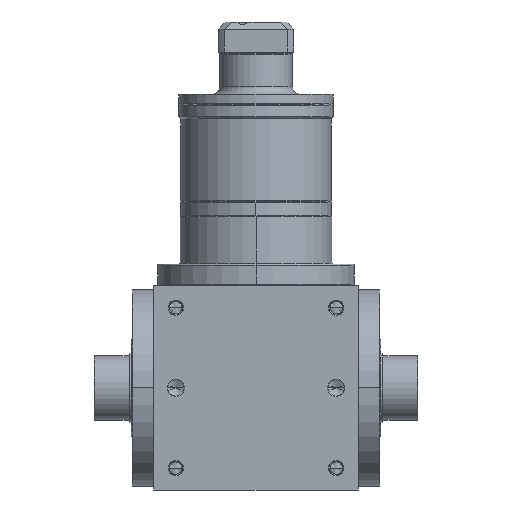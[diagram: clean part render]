
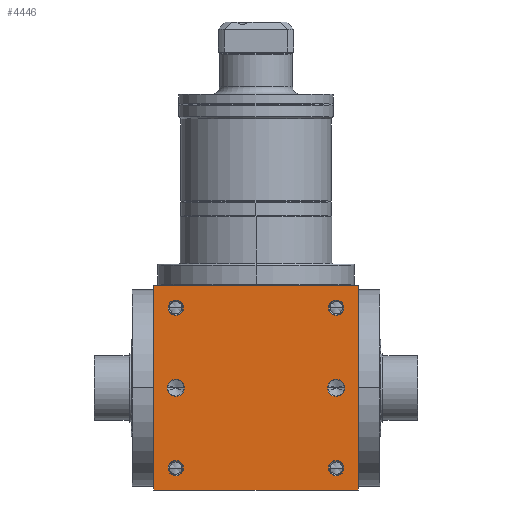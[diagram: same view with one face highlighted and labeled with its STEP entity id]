
A CAD part, front view. The second image highlights one B-rep face of the part: STEP entity #4446.
In plain terms, the highlighted planar face has unit normal (0, -1, 0).
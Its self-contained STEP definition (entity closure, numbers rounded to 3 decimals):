
#5=DIRECTION('',(1.,0.,0.));
#6=VECTOR('',#5,140.);
#7=CARTESIAN_POINT('',(-70.,-70.,-70.));
#8=LINE('',#7,#6);
#155=DIRECTION('',(0.,0.,1.));
#156=VECTOR('',#155,140.);
#157=CARTESIAN_POINT('',(70.,-70.,-70.));
#158=LINE('',#157,#156);
#209=DIRECTION('',(0.,0.,1.));
#210=VECTOR('',#209,140.);
#211=CARTESIAN_POINT('',(-70.,-70.,-70.));
#212=LINE('',#211,#210);
#213=CARTESIAN_POINT('',(55.,-70.,55.));
#214=DIRECTION('',(0.,1.,0.));
#215=DIRECTION('',(-1.,0.,0.));
#216=AXIS2_PLACEMENT_3D('',#213,#214,#215);
#218=CARTESIAN_POINT('',(55.,-70.,55.));
#219=DIRECTION('',(0.,1.,0.));
#220=DIRECTION('',(1.,0.,0.));
#221=AXIS2_PLACEMENT_3D('',#218,#219,#220);
#223=CARTESIAN_POINT('',(-55.,-70.,55.));
#224=DIRECTION('',(0.,1.,0.));
#225=DIRECTION('',(-1.,0.,0.));
#226=AXIS2_PLACEMENT_3D('',#223,#224,#225);
#228=CARTESIAN_POINT('',(-55.,-70.,55.));
#229=DIRECTION('',(0.,1.,0.));
#230=DIRECTION('',(1.,0.,0.));
#231=AXIS2_PLACEMENT_3D('',#228,#229,#230);
#233=CARTESIAN_POINT('',(55.,-70.,-55.));
#234=DIRECTION('',(0.,1.,0.));
#235=DIRECTION('',(-1.,0.,0.));
#236=AXIS2_PLACEMENT_3D('',#233,#234,#235);
#238=CARTESIAN_POINT('',(55.,-70.,-55.));
#239=DIRECTION('',(0.,1.,0.));
#240=DIRECTION('',(1.,0.,0.));
#241=AXIS2_PLACEMENT_3D('',#238,#239,#240);
#243=CARTESIAN_POINT('',(-55.,-70.,-55.));
#244=DIRECTION('',(0.,1.,0.));
#245=DIRECTION('',(-1.,0.,0.));
#246=AXIS2_PLACEMENT_3D('',#243,#244,#245);
#248=CARTESIAN_POINT('',(-55.,-70.,-55.));
#249=DIRECTION('',(0.,1.,0.));
#250=DIRECTION('',(1.,0.,0.));
#251=AXIS2_PLACEMENT_3D('',#248,#249,#250);
#253=CARTESIAN_POINT('',(-55.,-70.,0.));
#254=DIRECTION('',(0.,1.,0.));
#255=DIRECTION('',(1.,0.,0.));
#256=AXIS2_PLACEMENT_3D('',#253,#254,#255);
#258=CARTESIAN_POINT('',(-55.,-70.,0.));
#259=DIRECTION('',(0.,1.,0.));
#260=DIRECTION('',(-1.,0.,0.));
#261=AXIS2_PLACEMENT_3D('',#258,#259,#260);
#263=CARTESIAN_POINT('',(55.,-70.,0.));
#264=DIRECTION('',(0.,1.,0.));
#265=DIRECTION('',(1.,0.,0.));
#266=AXIS2_PLACEMENT_3D('',#263,#264,#265);
#268=CARTESIAN_POINT('',(55.,-70.,0.));
#269=DIRECTION('',(0.,1.,0.));
#270=DIRECTION('',(-1.,0.,0.));
#271=AXIS2_PLACEMENT_3D('',#268,#269,#270);
#285=DIRECTION('',(1.,0.,0.));
#286=VECTOR('',#285,140.);
#287=CARTESIAN_POINT('',(-70.,-70.,70.));
#288=LINE('',#287,#286);
#3580=CARTESIAN_POINT('',(-70.,-70.,-70.));
#3582=VERTEX_POINT('',#3580);
#3583=CARTESIAN_POINT('',(70.,-70.,-70.));
#3584=VERTEX_POINT('',#3583);
#3588=CARTESIAN_POINT('',(-70.,-70.,70.));
#3590=VERTEX_POINT('',#3588);
#3591=CARTESIAN_POINT('',(70.,-70.,70.));
#3592=VERTEX_POINT('',#3591);
#3747=CARTESIAN_POINT('',(49.75,-70.,55.));
#3748=CARTESIAN_POINT('',(60.25,-70.,55.));
#3749=VERTEX_POINT('',#3747);
#3750=VERTEX_POINT('',#3748);
#3755=CARTESIAN_POINT('',(-60.25,-70.,55.));
#3756=CARTESIAN_POINT('',(-49.75,-70.,55.));
#3757=VERTEX_POINT('',#3755);
#3758=VERTEX_POINT('',#3756);
#3763=CARTESIAN_POINT('',(49.75,-70.,-55.));
#3764=CARTESIAN_POINT('',(60.25,-70.,-55.));
#3765=VERTEX_POINT('',#3763);
#3766=VERTEX_POINT('',#3764);
#3771=CARTESIAN_POINT('',(-60.25,-70.,-55.));
#3772=CARTESIAN_POINT('',(-49.75,-70.,-55.));
#3773=VERTEX_POINT('',#3771);
#3774=VERTEX_POINT('',#3772);
#4095=CARTESIAN_POINT('',(-49.15,-70.,
0.));
#4096=CARTESIAN_POINT('',(-60.85,-70.,
0.));
#4097=VERTEX_POINT('',#4095);
#4098=VERTEX_POINT('',#4096);
#4103=CARTESIAN_POINT('',(60.85,-70.,0.));
#4104=CARTESIAN_POINT('',(49.15,-70.,0.));
#4105=VERTEX_POINT('',#4103);
#4106=VERTEX_POINT('',#4104);
#4398=CARTESIAN_POINT('',(-70.,-70.,-70.));
#4399=DIRECTION('',(0.,-1.,0.));
#4400=DIRECTION('',(1.,0.,0.));
#4401=AXIS2_PLACEMENT_3D('',#4398,#4399,#4400);
#4402=PLANE('',#4401);
#4403=ORIENTED_EDGE('',*,*,#4238,.F.);
#4404=ORIENTED_EDGE('',*,*,#4281,.T.);
#4406=ORIENTED_EDGE('',*,*,#4405,.T.);
#4407=ORIENTED_EDGE('',*,*,#4360,.F.);
#4408=EDGE_LOOP('',(#4403,#4404,#4406,#4407));
#4409=FACE_OUTER_BOUND('',#4408,.F.);
#4411=ORIENTED_EDGE('',*,*,#4410,.F.);
#4413=ORIENTED_EDGE('',*,*,#4412,.F.);
#4414=EDGE_LOOP('',(#4411,#4413));
#4415=FACE_BOUND('',#4414,.F.);
#4417=ORIENTED_EDGE('',*,*,#4416,.F.);
#4419=ORIENTED_EDGE('',*,*,#4418,.F.);
#4420=EDGE_LOOP('',(#4417,#4419));
#4421=FACE_BOUND('',#4420,.F.);
#4423=ORIENTED_EDGE('',*,*,#4422,.F.);
#4425=ORIENTED_EDGE('',*,*,#4424,.F.);
#4426=EDGE_LOOP('',(#4423,#4425));
#4427=FACE_BOUND('',#4426,.F.);
#4429=ORIENTED_EDGE('',*,*,#4428,.F.);
#4431=ORIENTED_EDGE('',*,*,#4430,.F.);
#4432=EDGE_LOOP('',(#4429,#4431));
#4433=FACE_BOUND('',#4432,.F.);
#4435=ORIENTED_EDGE('',*,*,#4434,.F.);
#4437=ORIENTED_EDGE('',*,*,#4436,.F.);
#4438=EDGE_LOOP('',(#4435,#4437));
#4439=FACE_BOUND('',#4438,.F.);
#4441=ORIENTED_EDGE('',*,*,#4440,.F.);
#4443=ORIENTED_EDGE('',*,*,#4442,.F.);
#4444=EDGE_LOOP('',(#4441,#4443));
#4445=FACE_BOUND('',#4444,.F.);
#4446=ADVANCED_FACE('',(#4409,#4415,#4421,#4427,#4433,#4439,#4445),#4402,.T.);
#217=CIRCLE('',#216,5.25);
#222=CIRCLE('',#221,5.25);
#227=CIRCLE('',#226,5.25);
#232=CIRCLE('',#231,5.25);
#237=CIRCLE('',#236,5.25);
#242=CIRCLE('',#241,5.25);
#247=CIRCLE('',#246,5.25);
#252=CIRCLE('',#251,5.25);
#257=CIRCLE('',#256,5.85);
#262=CIRCLE('',#261,5.85);
#267=CIRCLE('',#266,5.85);
#272=CIRCLE('',#271,5.85);
#4238=EDGE_CURVE('',#3582,#3584,#8,.T.);
#4281=EDGE_CURVE('',#3582,#3590,#212,.T.);
#4360=EDGE_CURVE('',#3584,#3592,#158,.T.);
#4405=EDGE_CURVE('',#3590,#3592,#288,.T.);
#4410=EDGE_CURVE('',#3749,#3750,#217,.T.);
#4412=EDGE_CURVE('',#3750,#3749,#222,.T.);
#4416=EDGE_CURVE('',#3757,#3758,#227,.T.);
#4418=EDGE_CURVE('',#3758,#3757,#232,.T.);
#4422=EDGE_CURVE('',#3765,#3766,#237,.T.);
#4424=EDGE_CURVE('',#3766,#3765,#242,.T.);
#4428=EDGE_CURVE('',#3773,#3774,#247,.T.);
#4430=EDGE_CURVE('',#3774,#3773,#252,.T.);
#4434=EDGE_CURVE('',#4097,#4098,#257,.T.);
#4436=EDGE_CURVE('',#4098,#4097,#262,.T.);
#4440=EDGE_CURVE('',#4105,#4106,#267,.T.);
#4442=EDGE_CURVE('',#4106,#4105,#272,.T.);
